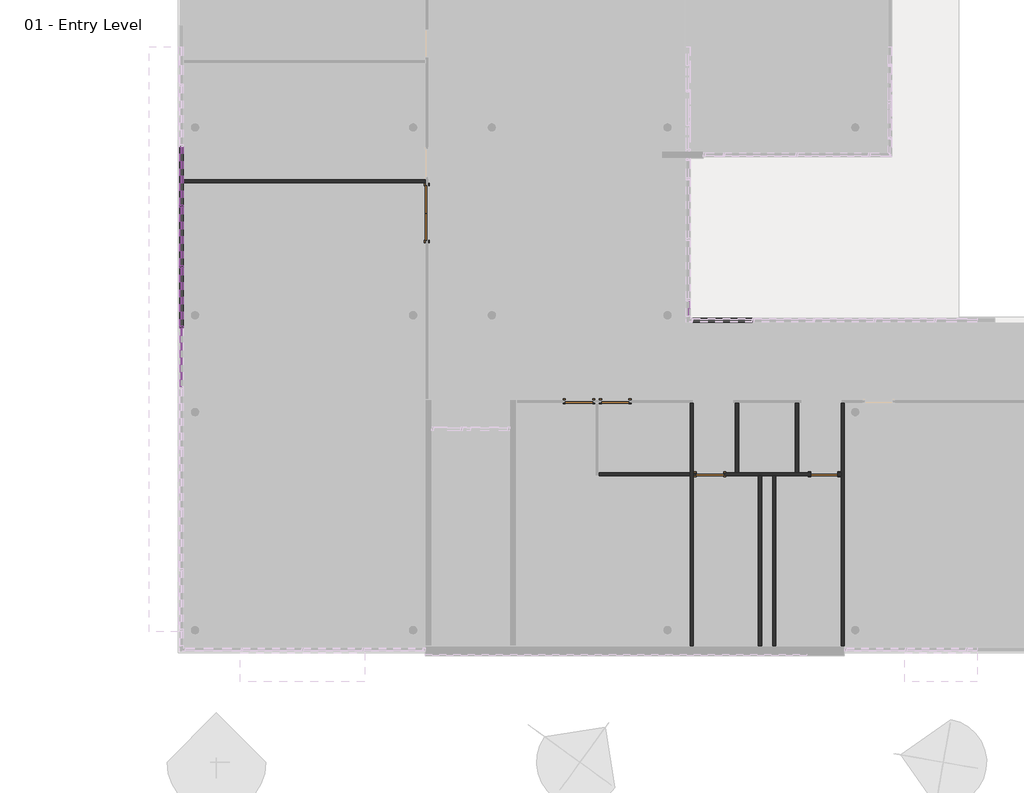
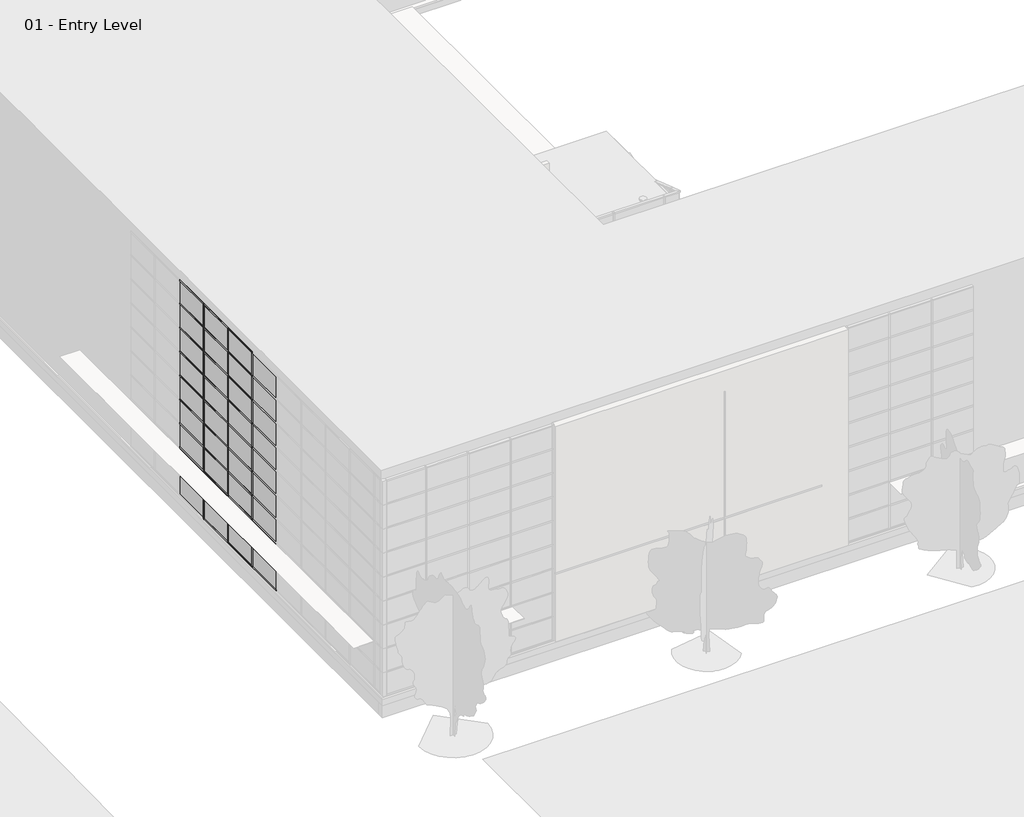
# One storey, part 8 of 35: 62 members, 45 plates, 8 walls, 5 doors.
"""IFC4 building model written with IfcOpenShell, lengths in millimetres."""

from ifc_helpers import new_model, si_unit, origin, origin_with_axes, place, context, project, spatial, polyline, outline, extrude, faceted_brep, transform, mapped, element, save
from components import door_3e29e47a, door_305aa2a5, door_e5f9f3c4, member_863be36e, member_2b49869a, member_391b434c, member_9e90ae50, member_274b5bb4, member_3d213ca6, member_ba732fc4, system_panel_glazed_1b9d6098, system_panel_glazed_70da479d, system_panel_glazed_4b84483b, system_panel_glazed_9dcaf0c5, system_panel_solid_b376696c, system_panel_solid_77e8b053

model = new_model("IFC4")

# Units and contexts
model_context = context("Model", 3, world=origin())
ifc_project = project(units=[si_unit("LENGTHUNIT", "METRE", prefix="MILLI")], contexts=[model_context])

# Site, building, storey
site = spatial("IfcSite", under=ifc_project)
building = spatial("IfcBuilding", under=site)
storey = spatial("IfcBuildingStorey", under=building, Name="01 - Entry Level", Elevation=0.0)

# Doors
placement = place(None, origin())
door_shape = door_3e29e47a(model_context)
element("IfcDoor", 1, ObjectType="Double-Flush : 72\" x 84\"", at=placement, inside=storey, context=model_context, shape_type="MappedRepresentation", body=[
    mapped(door_shape, transform((8414.6707476, 14595.4, 0.0), x_axis=(0.0, 1.0, 0.0), y_axis=(-1.0, 0.0, 0.0), z_axis=(0.0, 0.0, 1.0))),
])
door_2_shape = door_305aa2a5(model_context)
element("IfcDoor", 2, ObjectType="Single-Flush : 36\" x 84\"", at=placement, inside=storey, context=model_context, shape_type="MappedRepresentation", body=[
    mapped(door_2_shape, transform((13513.7207476, 8277.15, 0.0), x_axis=(1.0, 0.0, 0.0), y_axis=(0.0, 1.0, 0.0), z_axis=(0.0, 0.0, 1.0))),
])
element("IfcDoor", 3, ObjectType="Single-Flush : 36\" x 84\"", at=placement, inside=storey, context=model_context, shape_type="MappedRepresentation", body=[
    mapped(door_2_shape, transform((21743.3207476, 5832.4, 0.0), x_axis=(1.0, 0.0, 0.0), y_axis=(0.0, 1.0, 0.0), z_axis=(0.0, 0.0, 1.0))),
])
door_3_shape = door_e5f9f3c4(model_context)
element("IfcDoor", 4, ObjectType="Single-Flush : 36\" x 84\"", at=placement, inside=storey, context=model_context, shape_type="MappedRepresentation", body=[
    mapped(door_3_shape, transform((14732.9207476, 8277.15, 0.0), x_axis=(-1.0, 0.0, 0.0), y_axis=(0.0, -1.0, 0.0), z_axis=(0.0, 0.0, 1.0))),
])
element("IfcDoor", 5, ObjectType="Single-Flush : 36\" x 84\"", at=placement, inside=storey, context=model_context, shape_type="MappedRepresentation", body=[
    mapped(door_3_shape, transform((17907.9207476, 5832.4, 0.0), x_axis=(-1.0, 0.0, 0.0), y_axis=(0.0, -1.0, 0.0), z_axis=(0.0, 0.0, 1.0))),
])

# Members
member_shape = member_863be36e(model_context)
element("IfcMember", 6, ObjectType="L Corner Mullion : 5\" x 5\" Corner", at=placement, inside=storey, context=model_context, shape_type="MappedRepresentation", body=[
    mapped(member_shape, transform((17184.0207476, 11001.3, 10972.8), x_axis=(0.0, -1.0, 0.0), y_axis=(1.0, 0.0, 0.0), z_axis=(0.0, 0.0, 1.0))),
])
element("IfcMember", 7, ObjectType="L Corner Mullion : 5\" x 5\" Corner", at=placement, inside=storey, context=model_context, shape_type="MappedRepresentation", body=[
    mapped(member_shape, transform((17184.0207476, 11001.3, 6096.0), x_axis=(-1.0, 0.0, 0.0), y_axis=(0.0, 1.0, 0.0), z_axis=(0.0, 0.0, -1.0))),
])
member_2_shape = member_2b49869a(model_context)
element("IfcMember", 8, ObjectType="Rectangular Mullion : 2.5\" x 5\" rectangular", at=placement, inside=storey, context=model_context, shape_type="MappedRepresentation", body=[
    mapped(member_2_shape, transform((178.7207476, 14824.0, 9753.6), x_axis=(0.0, -1.0, 0.0), y_axis=(-1.0, 0.0, 0.0), z_axis=(0.0, 0.0, -1.0))),
])
element("IfcMember", 9, ObjectType="Rectangular Mullion : 2.5\" x 5\" rectangular", at=placement, inside=storey, context=model_context, shape_type="MappedRepresentation", body=[
    mapped(member_2_shape, transform((178.7207476, 12792.0, 9753.6), x_axis=(0.0, -1.0, 0.0), y_axis=(-1.0, 0.0, 0.0), z_axis=(0.0, 0.0, -1.0))),
])
element("IfcMember", 10, ObjectType="Rectangular Mullion : 2.5\" x 5\" rectangular", at=placement, inside=storey, context=model_context, shape_type="MappedRepresentation", body=[
    mapped(member_2_shape, transform((178.7207476, 10760.0, 9753.6), x_axis=(0.0, -1.0, 0.0), y_axis=(-1.0, 0.0, 0.0), z_axis=(0.0, 0.0, -1.0))),
])
member_3_shape = member_391b434c(model_context)
element("IfcMember", 11, ObjectType="Rectangular Mullion : 2.5\" x 5\" rectangular", at=placement, inside=storey, context=model_context, shape_type="MappedRepresentation", body=[
    mapped(member_3_shape, transform((178.7207476, 14855.75, 10972.8), x_axis=(0.0, 0.0, 1.0), y_axis=(-1.0, 0.0, 0.0), z_axis=(0.0, -1.0, 0.0))),
])
element("IfcMember", 12, ObjectType="Rectangular Mullion : 2.5\" x 5\" rectangular", at=placement, inside=storey, context=model_context, shape_type="MappedRepresentation", body=[
    mapped(member_3_shape, transform((178.7207476, 12823.75, 10972.8), x_axis=(0.0, 0.0, 1.0), y_axis=(-1.0, 0.0, 0.0), z_axis=(0.0, -1.0, 0.0))),
])
element("IfcMember", 13, ObjectType="Rectangular Mullion : 2.5\" x 5\" rectangular", at=placement, inside=storey, context=model_context, shape_type="MappedRepresentation", body=[
    mapped(member_3_shape, transform((178.7207476, 10791.75, 10972.8), x_axis=(0.0, 0.0, 1.0), y_axis=(-1.0, 0.0, 0.0), z_axis=(0.0, -1.0, 0.0))),
])
element("IfcMember", 14, ObjectType="Rectangular Mullion : 2.5\" x 5\" rectangular", at=placement, inside=storey, context=model_context, shape_type="MappedRepresentation", body=[
    mapped(member_3_shape, transform((178.7207476, 14792.25, 0.0), x_axis=(0.0, 0.0, -1.0), y_axis=(-1.0, 0.0, 0.0), z_axis=(0.0, 1.0, 0.0))),
])
element("IfcMember", 15, ObjectType="Rectangular Mullion : 2.5\" x 5\" rectangular", at=placement, inside=storey, context=model_context, shape_type="MappedRepresentation", body=[
    mapped(member_3_shape, transform((178.7207476, 12760.25, 0.0), x_axis=(0.0, 0.0, -1.0), y_axis=(-1.0, 0.0, 0.0), z_axis=(0.0, 1.0, 0.0))),
])
element("IfcMember", 16, ObjectType="Rectangular Mullion : 2.5\" x 5\" rectangular", at=placement, inside=storey, context=model_context, shape_type="MappedRepresentation", body=[
    mapped(member_3_shape, transform((178.7207476, 10728.25, 0.0), x_axis=(0.0, 0.0, -1.0), y_axis=(-1.0, 0.0, 0.0), z_axis=(0.0, 1.0, 0.0))),
])
member_4_shape = member_9e90ae50(model_context)
element("IfcMember", 17, ObjectType="Rectangular Mullion : 2.5\" x 5\" rectangular", at=placement, inside=storey, context=model_context, shape_type="MappedRepresentation", body=[
    mapped(member_4_shape, transform((178.7207476, 14855.75, 1219.2), x_axis=(0.0, 0.0, 1.0), y_axis=(-1.0, 0.0, 0.0), z_axis=(0.0, -1.0, 0.0))),
])
element("IfcMember", 18, ObjectType="Rectangular Mullion : 2.5\" x 5\" rectangular", at=placement, inside=storey, context=model_context, shape_type="MappedRepresentation", body=[
    mapped(member_4_shape, transform((178.7207476, 12823.75, 1219.2), x_axis=(0.0, 0.0, 1.0), y_axis=(-1.0, 0.0, 0.0), z_axis=(0.0, -1.0, 0.0))),
])
element("IfcMember", 19, ObjectType="Rectangular Mullion : 2.5\" x 5\" rectangular", at=placement, inside=storey, context=model_context, shape_type="MappedRepresentation", body=[
    mapped(member_4_shape, transform((178.7207476, 10791.75, 1219.2), x_axis=(0.0, 0.0, 1.0), y_axis=(-1.0, 0.0, 0.0), z_axis=(0.0, -1.0, 0.0))),
])
element("IfcMember", 20, ObjectType="Rectangular Mullion : 2.5\" x 5\" rectangular", at=placement, inside=storey, context=model_context, shape_type="MappedRepresentation", body=[
    mapped(member_4_shape, transform((178.7207476, 14855.75, 2438.4), x_axis=(0.0, 0.0, 1.0), y_axis=(-1.0, 0.0, 0.0), z_axis=(0.0, -1.0, 0.0))),
])
element("IfcMember", 21, ObjectType="Rectangular Mullion : 2.5\" x 5\" rectangular", at=placement, inside=storey, context=model_context, shape_type="MappedRepresentation", body=[
    mapped(member_4_shape, transform((178.7207476, 12823.75, 2438.4), x_axis=(0.0, 0.0, 1.0), y_axis=(-1.0, 0.0, 0.0), z_axis=(0.0, -1.0, 0.0))),
])
element("IfcMember", 22, ObjectType="Rectangular Mullion : 2.5\" x 5\" rectangular", at=placement, inside=storey, context=model_context, shape_type="MappedRepresentation", body=[
    mapped(member_4_shape, transform((178.7207476, 10791.75, 2438.4), x_axis=(0.0, 0.0, 1.0), y_axis=(-1.0, 0.0, 0.0), z_axis=(0.0, -1.0, 0.0))),
])
element("IfcMember", 23, ObjectType="Rectangular Mullion : 2.5\" x 5\" rectangular", at=placement, inside=storey, context=model_context, shape_type="MappedRepresentation", body=[
    mapped(member_4_shape, transform((178.7207476, 14855.75, 3657.6), x_axis=(0.0, 0.0, 1.0), y_axis=(-1.0, 0.0, 0.0), z_axis=(0.0, -1.0, 0.0))),
])
element("IfcMember", 24, ObjectType="Rectangular Mullion : 2.5\" x 5\" rectangular", at=placement, inside=storey, context=model_context, shape_type="MappedRepresentation", body=[
    mapped(member_4_shape, transform((178.7207476, 12823.75, 3657.6), x_axis=(0.0, 0.0, 1.0), y_axis=(-1.0, 0.0, 0.0), z_axis=(0.0, -1.0, 0.0))),
])
element("IfcMember", 25, ObjectType="Rectangular Mullion : 2.5\" x 5\" rectangular", at=placement, inside=storey, context=model_context, shape_type="MappedRepresentation", body=[
    mapped(member_4_shape, transform((178.7207476, 10791.75, 3657.6), x_axis=(0.0, 0.0, 1.0), y_axis=(-1.0, 0.0, 0.0), z_axis=(0.0, -1.0, 0.0))),
])
element("IfcMember", 26, ObjectType="Rectangular Mullion : 2.5\" x 5\" rectangular", at=placement, inside=storey, context=model_context, shape_type="MappedRepresentation", body=[
    mapped(member_4_shape, transform((178.7207476, 14855.75, 4876.8), x_axis=(0.0, 0.0, 1.0), y_axis=(-1.0, 0.0, 0.0), z_axis=(0.0, -1.0, 0.0))),
])
element("IfcMember", 27, ObjectType="Rectangular Mullion : 2.5\" x 5\" rectangular", at=placement, inside=storey, context=model_context, shape_type="MappedRepresentation", body=[
    mapped(member_4_shape, transform((178.7207476, 12823.75, 4876.8), x_axis=(0.0, 0.0, 1.0), y_axis=(-1.0, 0.0, 0.0), z_axis=(0.0, -1.0, 0.0))),
])
element("IfcMember", 28, ObjectType="Rectangular Mullion : 2.5\" x 5\" rectangular", at=placement, inside=storey, context=model_context, shape_type="MappedRepresentation", body=[
    mapped(member_4_shape, transform((178.7207476, 10791.75, 4876.8), x_axis=(0.0, 0.0, 1.0), y_axis=(-1.0, 0.0, 0.0), z_axis=(0.0, -1.0, 0.0))),
])
element("IfcMember", 29, ObjectType="Rectangular Mullion : 2.5\" x 5\" rectangular", at=placement, inside=storey, context=model_context, shape_type="MappedRepresentation", body=[
    mapped(member_4_shape, transform((178.7207476, 14855.75, 6096.0), x_axis=(0.0, 0.0, 1.0), y_axis=(-1.0, 0.0, 0.0), z_axis=(0.0, -1.0, 0.0))),
])
element("IfcMember", 30, ObjectType="Rectangular Mullion : 2.5\" x 5\" rectangular", at=placement, inside=storey, context=model_context, shape_type="MappedRepresentation", body=[
    mapped(member_4_shape, transform((178.7207476, 12823.75, 6096.0), x_axis=(0.0, 0.0, 1.0), y_axis=(-1.0, 0.0, 0.0), z_axis=(0.0, -1.0, 0.0))),
])
element("IfcMember", 31, ObjectType="Rectangular Mullion : 2.5\" x 5\" rectangular", at=placement, inside=storey, context=model_context, shape_type="MappedRepresentation", body=[
    mapped(member_4_shape, transform((178.7207476, 10791.75, 6096.0), x_axis=(0.0, 0.0, 1.0), y_axis=(-1.0, 0.0, 0.0), z_axis=(0.0, -1.0, 0.0))),
])
element("IfcMember", 32, ObjectType="Rectangular Mullion : 2.5\" x 5\" rectangular", at=placement, inside=storey, context=model_context, shape_type="MappedRepresentation", body=[
    mapped(member_4_shape, transform((178.7207476, 14855.75, 7315.2), x_axis=(0.0, 0.0, 1.0), y_axis=(-1.0, 0.0, 0.0), z_axis=(0.0, -1.0, 0.0))),
])
element("IfcMember", 33, ObjectType="Rectangular Mullion : 2.5\" x 5\" rectangular", at=placement, inside=storey, context=model_context, shape_type="MappedRepresentation", body=[
    mapped(member_4_shape, transform((178.7207476, 12823.75, 7315.2), x_axis=(0.0, 0.0, 1.0), y_axis=(-1.0, 0.0, 0.0), z_axis=(0.0, -1.0, 0.0))),
])
element("IfcMember", 34, ObjectType="Rectangular Mullion : 2.5\" x 5\" rectangular", at=placement, inside=storey, context=model_context, shape_type="MappedRepresentation", body=[
    mapped(member_4_shape, transform((178.7207476, 10791.75, 7315.2), x_axis=(0.0, 0.0, 1.0), y_axis=(-1.0, 0.0, 0.0), z_axis=(0.0, -1.0, 0.0))),
])
element("IfcMember", 35, ObjectType="Rectangular Mullion : 2.5\" x 5\" rectangular", at=placement, inside=storey, context=model_context, shape_type="MappedRepresentation", body=[
    mapped(member_4_shape, transform((178.7207476, 14855.75, 8534.4), x_axis=(0.0, 0.0, 1.0), y_axis=(-1.0, 0.0, 0.0), z_axis=(0.0, -1.0, 0.0))),
])
element("IfcMember", 36, ObjectType="Rectangular Mullion : 2.5\" x 5\" rectangular", at=placement, inside=storey, context=model_context, shape_type="MappedRepresentation", body=[
    mapped(member_4_shape, transform((178.7207476, 12823.75, 8534.4), x_axis=(0.0, 0.0, 1.0), y_axis=(-1.0, 0.0, 0.0), z_axis=(0.0, -1.0, 0.0))),
])
element("IfcMember", 37, ObjectType="Rectangular Mullion : 2.5\" x 5\" rectangular", at=placement, inside=storey, context=model_context, shape_type="MappedRepresentation", body=[
    mapped(member_4_shape, transform((178.7207476, 10791.75, 8534.4), x_axis=(0.0, 0.0, 1.0), y_axis=(-1.0, 0.0, 0.0), z_axis=(0.0, -1.0, 0.0))),
])
element("IfcMember", 38, ObjectType="Rectangular Mullion : 2.5\" x 5\" rectangular", at=placement, inside=storey, context=model_context, shape_type="MappedRepresentation", body=[
    mapped(member_4_shape, transform((178.7207476, 14855.75, 9753.6), x_axis=(0.0, 0.0, 1.0), y_axis=(-1.0, 0.0, 0.0), z_axis=(0.0, -1.0, 0.0))),
])
element("IfcMember", 39, ObjectType="Rectangular Mullion : 2.5\" x 5\" rectangular", at=placement, inside=storey, context=model_context, shape_type="MappedRepresentation", body=[
    mapped(member_4_shape, transform((178.7207476, 12823.75, 9753.6), x_axis=(0.0, 0.0, 1.0), y_axis=(-1.0, 0.0, 0.0), z_axis=(0.0, -1.0, 0.0))),
])
element("IfcMember", 40, ObjectType="Rectangular Mullion : 2.5\" x 5\" rectangular", at=placement, inside=storey, context=model_context, shape_type="MappedRepresentation", body=[
    mapped(member_4_shape, transform((178.7207476, 10791.75, 9753.6), x_axis=(0.0, 0.0, 1.0), y_axis=(-1.0, 0.0, 0.0), z_axis=(0.0, -1.0, 0.0))),
])
element("IfcMember", 41, ObjectType="Rectangular Mullion : 2.5\" x 5\" rectangular", at=placement, inside=storey, context=model_context, shape_type="MappedRepresentation", body=[
    mapped(member_2_shape, transform((178.7207476, 14824.0, 0.0), x_axis=(0.0, -1.0, 0.0), y_axis=(-1.0, 0.0, 0.0), z_axis=(0.0, 0.0, -1.0))),
])
element("IfcMember", 42, ObjectType="Rectangular Mullion : 2.5\" x 5\" rectangular", at=placement, inside=storey, context=model_context, shape_type="MappedRepresentation", body=[
    mapped(member_2_shape, transform((178.7207476, 12792.0, 0.0), x_axis=(0.0, -1.0, 0.0), y_axis=(-1.0, 0.0, 0.0), z_axis=(0.0, 0.0, -1.0))),
])
element("IfcMember", 43, ObjectType="Rectangular Mullion : 2.5\" x 5\" rectangular", at=placement, inside=storey, context=model_context, shape_type="MappedRepresentation", body=[
    mapped(member_2_shape, transform((178.7207476, 10760.0, 0.0), x_axis=(0.0, -1.0, 0.0), y_axis=(-1.0, 0.0, 0.0), z_axis=(0.0, 0.0, -1.0))),
])
element("IfcMember", 44, ObjectType="Rectangular Mullion : 2.5\" x 5\" rectangular", at=placement, inside=storey, context=model_context, shape_type="MappedRepresentation", body=[
    mapped(member_2_shape, transform((178.7207476, 14824.0, 1219.2), x_axis=(0.0, -1.0, 0.0), y_axis=(-1.0, 0.0, 0.0), z_axis=(0.0, 0.0, -1.0))),
])
element("IfcMember", 45, ObjectType="Rectangular Mullion : 2.5\" x 5\" rectangular", at=placement, inside=storey, context=model_context, shape_type="MappedRepresentation", body=[
    mapped(member_2_shape, transform((178.7207476, 12792.0, 1219.2), x_axis=(0.0, -1.0, 0.0), y_axis=(-1.0, 0.0, 0.0), z_axis=(0.0, 0.0, -1.0))),
])
element("IfcMember", 46, ObjectType="Rectangular Mullion : 2.5\" x 5\" rectangular", at=placement, inside=storey, context=model_context, shape_type="MappedRepresentation", body=[
    mapped(member_2_shape, transform((178.7207476, 10760.0, 1219.2), x_axis=(0.0, -1.0, 0.0), y_axis=(-1.0, 0.0, 0.0), z_axis=(0.0, 0.0, -1.0))),
])
element("IfcMember", 47, ObjectType="Rectangular Mullion : 2.5\" x 5\" rectangular", at=placement, inside=storey, context=model_context, shape_type="MappedRepresentation", body=[
    mapped(member_2_shape, transform((178.7207476, 14824.0, 2438.4), x_axis=(0.0, -1.0, 0.0), y_axis=(-1.0, 0.0, 0.0), z_axis=(0.0, 0.0, -1.0))),
])
element("IfcMember", 48, ObjectType="Rectangular Mullion : 2.5\" x 5\" rectangular", at=placement, inside=storey, context=model_context, shape_type="MappedRepresentation", body=[
    mapped(member_2_shape, transform((178.7207476, 12792.0, 2438.4), x_axis=(0.0, -1.0, 0.0), y_axis=(-1.0, 0.0, 0.0), z_axis=(0.0, 0.0, -1.0))),
])
element("IfcMember", 49, ObjectType="Rectangular Mullion : 2.5\" x 5\" rectangular", at=placement, inside=storey, context=model_context, shape_type="MappedRepresentation", body=[
    mapped(member_2_shape, transform((178.7207476, 10760.0, 2438.4), x_axis=(0.0, -1.0, 0.0), y_axis=(-1.0, 0.0, 0.0), z_axis=(0.0, 0.0, -1.0))),
])
element("IfcMember", 50, ObjectType="Rectangular Mullion : 2.5\" x 5\" rectangular", at=placement, inside=storey, context=model_context, shape_type="MappedRepresentation", body=[
    mapped(member_2_shape, transform((178.7207476, 14824.0, 3657.6), x_axis=(0.0, -1.0, 0.0), y_axis=(-1.0, 0.0, 0.0), z_axis=(0.0, 0.0, -1.0))),
])
element("IfcMember", 51, ObjectType="Rectangular Mullion : 2.5\" x 5\" rectangular", at=placement, inside=storey, context=model_context, shape_type="MappedRepresentation", body=[
    mapped(member_2_shape, transform((178.7207476, 12792.0, 3657.6), x_axis=(0.0, -1.0, 0.0), y_axis=(-1.0, 0.0, 0.0), z_axis=(0.0, 0.0, -1.0))),
])
element("IfcMember", 52, ObjectType="Rectangular Mullion : 2.5\" x 5\" rectangular", at=placement, inside=storey, context=model_context, shape_type="MappedRepresentation", body=[
    mapped(member_2_shape, transform((178.7207476, 10760.0, 3657.6), x_axis=(0.0, -1.0, 0.0), y_axis=(-1.0, 0.0, 0.0), z_axis=(0.0, 0.0, -1.0))),
])
element("IfcMember", 53, ObjectType="Rectangular Mullion : 2.5\" x 5\" rectangular", at=placement, inside=storey, context=model_context, shape_type="MappedRepresentation", body=[
    mapped(member_2_shape, transform((178.7207476, 14824.0, 4876.8), x_axis=(0.0, -1.0, 0.0), y_axis=(-1.0, 0.0, 0.0), z_axis=(0.0, 0.0, -1.0))),
])
element("IfcMember", 54, ObjectType="Rectangular Mullion : 2.5\" x 5\" rectangular", at=placement, inside=storey, context=model_context, shape_type="MappedRepresentation", body=[
    mapped(member_2_shape, transform((178.7207476, 12792.0, 4876.8), x_axis=(0.0, -1.0, 0.0), y_axis=(-1.0, 0.0, 0.0), z_axis=(0.0, 0.0, -1.0))),
])
element("IfcMember", 55, ObjectType="Rectangular Mullion : 2.5\" x 5\" rectangular", at=placement, inside=storey, context=model_context, shape_type="MappedRepresentation", body=[
    mapped(member_2_shape, transform((178.7207476, 10760.0, 4876.8), x_axis=(0.0, -1.0, 0.0), y_axis=(-1.0, 0.0, 0.0), z_axis=(0.0, 0.0, -1.0))),
])
element("IfcMember", 56, ObjectType="Rectangular Mullion : 2.5\" x 5\" rectangular", at=placement, inside=storey, context=model_context, shape_type="MappedRepresentation", body=[
    mapped(member_2_shape, transform((178.7207476, 14824.0, 6096.0), x_axis=(0.0, -1.0, 0.0), y_axis=(-1.0, 0.0, 0.0), z_axis=(0.0, 0.0, -1.0))),
])
element("IfcMember", 57, ObjectType="Rectangular Mullion : 2.5\" x 5\" rectangular", at=placement, inside=storey, context=model_context, shape_type="MappedRepresentation", body=[
    mapped(member_2_shape, transform((178.7207476, 12792.0, 6096.0), x_axis=(0.0, -1.0, 0.0), y_axis=(-1.0, 0.0, 0.0), z_axis=(0.0, 0.0, -1.0))),
])
element("IfcMember", 58, ObjectType="Rectangular Mullion : 2.5\" x 5\" rectangular", at=placement, inside=storey, context=model_context, shape_type="MappedRepresentation", body=[
    mapped(member_2_shape, transform((178.7207476, 10760.0, 6096.0), x_axis=(0.0, -1.0, 0.0), y_axis=(-1.0, 0.0, 0.0), z_axis=(0.0, 0.0, -1.0))),
])
element("IfcMember", 59, ObjectType="Rectangular Mullion : 2.5\" x 5\" rectangular", at=placement, inside=storey, context=model_context, shape_type="MappedRepresentation", body=[
    mapped(member_2_shape, transform((178.7207476, 14824.0, 7315.2), x_axis=(0.0, -1.0, 0.0), y_axis=(-1.0, 0.0, 0.0), z_axis=(0.0, 0.0, -1.0))),
])
element("IfcMember", 60, ObjectType="Rectangular Mullion : 2.5\" x 5\" rectangular", at=placement, inside=storey, context=model_context, shape_type="MappedRepresentation", body=[
    mapped(member_2_shape, transform((178.7207476, 12792.0, 7315.2), x_axis=(0.0, -1.0, 0.0), y_axis=(-1.0, 0.0, 0.0), z_axis=(0.0, 0.0, -1.0))),
])
element("IfcMember", 61, ObjectType="Rectangular Mullion : 2.5\" x 5\" rectangular", at=placement, inside=storey, context=model_context, shape_type="MappedRepresentation", body=[
    mapped(member_2_shape, transform((178.7207476, 10760.0, 7315.2), x_axis=(0.0, -1.0, 0.0), y_axis=(-1.0, 0.0, 0.0), z_axis=(0.0, 0.0, -1.0))),
])
element("IfcMember", 62, ObjectType="Rectangular Mullion : 2.5\" x 5\" rectangular", at=placement, inside=storey, context=model_context, shape_type="MappedRepresentation", body=[
    mapped(member_2_shape, transform((178.7207476, 14824.0, 8534.4), x_axis=(0.0, -1.0, 0.0), y_axis=(-1.0, 0.0, 0.0), z_axis=(0.0, 0.0, -1.0))),
])
element("IfcMember", 63, ObjectType="Rectangular Mullion : 2.5\" x 5\" rectangular", at=placement, inside=storey, context=model_context, shape_type="MappedRepresentation", body=[
    mapped(member_2_shape, transform((178.7207476, 12792.0, 8534.4), x_axis=(0.0, -1.0, 0.0), y_axis=(-1.0, 0.0, 0.0), z_axis=(0.0, 0.0, -1.0))),
])
element("IfcMember", 64, ObjectType="Rectangular Mullion : 2.5\" x 5\" rectangular", at=placement, inside=storey, context=model_context, shape_type="MappedRepresentation", body=[
    mapped(member_2_shape, transform((178.7207476, 10760.0, 8534.4), x_axis=(0.0, -1.0, 0.0), y_axis=(-1.0, 0.0, 0.0), z_axis=(0.0, 0.0, -1.0))),
])
member_5_shape = member_274b5bb4(model_context)
element("IfcMember", 65, ObjectType="Rectangular Mullion : 2.5\" x 5\" rectangular", at=placement, inside=storey, context=model_context, shape_type="MappedRepresentation", body=[
    mapped(member_5_shape, transform((17184.0207476, 11128.3, 0.0), x_axis=(0.0, 0.0, -1.0), y_axis=(1.0, 0.0, 0.0), z_axis=(0.0, -1.0, 0.0))),
])
member_6_shape = member_3d213ca6(model_context)
element("IfcMember", 66, ObjectType="Rectangular Mullion : 2.5\" x 5\" rectangular", at=placement, inside=storey, context=model_context, shape_type="MappedRepresentation", body=[
    mapped(member_6_shape, transform((17336.4207476, 11001.3, 1219.2), x_axis=(0.0, 0.0, 1.0), y_axis=(0.0, 1.0, 0.0), z_axis=(-1.0, 0.0, 0.0))),
])
member_7_shape = member_ba732fc4(model_context)
element("IfcMember", 67, ObjectType="Rectangular Mullion : 2.5\" x 5\" rectangular", at=placement, inside=storey, context=model_context, shape_type="MappedRepresentation", body=[
    mapped(member_7_shape, transform((17311.0207476, 11001.3, 10972.8), x_axis=(0.0, 0.0, 1.0), y_axis=(0.0, 1.0, 0.0), z_axis=(-1.0, 0.0, 0.0))),
])

# Plates
system_panel_glazed_shape = system_panel_glazed_1b9d6098(model_context)
element("IfcPlate", 68, ObjectType="System Panel : Glazed", at=placement, inside=storey, context=model_context, shape_type="MappedRepresentation", body=[
    mapped(system_panel_glazed_shape, transform((178.7207476, 15840.0, 63.5), x_axis=(0.0, -1.0, 0.0), y_axis=(1.0, 0.0, 0.0), z_axis=(0.0, 0.0, 1.0))),
])
element("IfcPlate", 69, ObjectType="System Panel : Glazed", at=placement, inside=storey, context=model_context, shape_type="MappedRepresentation", body=[
    mapped(system_panel_glazed_shape, transform((178.7207476, 13808.0, 63.5), x_axis=(0.0, -1.0, 0.0), y_axis=(1.0, 0.0, 0.0), z_axis=(0.0, 0.0, 1.0))),
])
element("IfcPlate", 70, ObjectType="System Panel : Glazed", at=placement, inside=storey, context=model_context, shape_type="MappedRepresentation", body=[
    mapped(system_panel_glazed_shape, transform((178.7207476, 11776.0, 63.5), x_axis=(0.0, -1.0, 0.0), y_axis=(1.0, 0.0, 0.0), z_axis=(0.0, 0.0, 1.0))),
])
element("IfcPlate", 71, ObjectType="System Panel : Glazed", at=placement, inside=storey, context=model_context, shape_type="MappedRepresentation", body=[
    mapped(system_panel_glazed_shape, transform((178.7207476, 9744.0, 63.5), x_axis=(0.0, -1.0, 0.0), y_axis=(1.0, 0.0, 0.0), z_axis=(0.0, 0.0, 1.0))),
])
system_panel_glazed_2_shape = system_panel_glazed_70da479d(model_context)
element("IfcPlate", 72, ObjectType="System Panel : Glazed", at=placement, inside=storey, context=model_context, shape_type="MappedRepresentation", body=[
    mapped(system_panel_glazed_2_shape, transform((178.7207476, 15840.0, 1250.95), x_axis=(0.0, -1.0, 0.0), y_axis=(1.0, 0.0, 0.0), z_axis=(0.0, 0.0, 1.0))),
])
element("IfcPlate", 73, ObjectType="System Panel : Glazed", at=placement, inside=storey, context=model_context, shape_type="MappedRepresentation", body=[
    mapped(system_panel_glazed_2_shape, transform((178.7207476, 13808.0, 1250.95), x_axis=(0.0, -1.0, 0.0), y_axis=(1.0, 0.0, 0.0), z_axis=(0.0, 0.0, 1.0))),
])
element("IfcPlate", 74, ObjectType="System Panel : Glazed", at=placement, inside=storey, context=model_context, shape_type="MappedRepresentation", body=[
    mapped(system_panel_glazed_2_shape, transform((178.7207476, 11776.0, 1250.95), x_axis=(0.0, -1.0, 0.0), y_axis=(1.0, 0.0, 0.0), z_axis=(0.0, 0.0, 1.0))),
])
element("IfcPlate", 75, ObjectType="System Panel : Glazed", at=placement, inside=storey, context=model_context, shape_type="MappedRepresentation", body=[
    mapped(system_panel_glazed_2_shape, transform((178.7207476, 9744.0, 1250.95), x_axis=(0.0, -1.0, 0.0), y_axis=(1.0, 0.0, 0.0), z_axis=(0.0, 0.0, 1.0))),
])
element("IfcPlate", 76, ObjectType="System Panel : Glazed", at=placement, inside=storey, context=model_context, shape_type="MappedRepresentation", body=[
    mapped(system_panel_glazed_2_shape, transform((178.7207476, 15840.0, 3689.35), x_axis=(0.0, -1.0, 0.0), y_axis=(1.0, 0.0, 0.0), z_axis=(0.0, 0.0, 1.0))),
])
element("IfcPlate", 77, ObjectType="System Panel : Glazed", at=placement, inside=storey, context=model_context, shape_type="MappedRepresentation", body=[
    mapped(system_panel_glazed_2_shape, transform((178.7207476, 13808.0, 3689.35), x_axis=(0.0, -1.0, 0.0), y_axis=(1.0, 0.0, 0.0), z_axis=(0.0, 0.0, 1.0))),
])
element("IfcPlate", 78, ObjectType="System Panel : Glazed", at=placement, inside=storey, context=model_context, shape_type="MappedRepresentation", body=[
    mapped(system_panel_glazed_2_shape, transform((178.7207476, 11776.0, 3689.35), x_axis=(0.0, -1.0, 0.0), y_axis=(1.0, 0.0, 0.0), z_axis=(0.0, 0.0, 1.0))),
])
element("IfcPlate", 79, ObjectType="System Panel : Glazed", at=placement, inside=storey, context=model_context, shape_type="MappedRepresentation", body=[
    mapped(system_panel_glazed_2_shape, transform((178.7207476, 9744.0, 3689.35), x_axis=(0.0, -1.0, 0.0), y_axis=(1.0, 0.0, 0.0), z_axis=(0.0, 0.0, 1.0))),
])
element("IfcPlate", 80, ObjectType="System Panel : Glazed", at=placement, inside=storey, context=model_context, shape_type="MappedRepresentation", body=[
    mapped(system_panel_glazed_2_shape, transform((178.7207476, 15840.0, 4908.55), x_axis=(0.0, -1.0, 0.0), y_axis=(1.0, 0.0, 0.0), z_axis=(0.0, 0.0, 1.0))),
])
element("IfcPlate", 81, ObjectType="System Panel : Glazed", at=placement, inside=storey, context=model_context, shape_type="MappedRepresentation", body=[
    mapped(system_panel_glazed_2_shape, transform((178.7207476, 13808.0, 4908.55), x_axis=(0.0, -1.0, 0.0), y_axis=(1.0, 0.0, 0.0), z_axis=(0.0, 0.0, 1.0))),
])
element("IfcPlate", 82, ObjectType="System Panel : Glazed", at=placement, inside=storey, context=model_context, shape_type="MappedRepresentation", body=[
    mapped(system_panel_glazed_2_shape, transform((178.7207476, 11776.0, 4908.55), x_axis=(0.0, -1.0, 0.0), y_axis=(1.0, 0.0, 0.0), z_axis=(0.0, 0.0, 1.0))),
])
element("IfcPlate", 83, ObjectType="System Panel : Glazed", at=placement, inside=storey, context=model_context, shape_type="MappedRepresentation", body=[
    mapped(system_panel_glazed_2_shape, transform((178.7207476, 9744.0, 4908.55), x_axis=(0.0, -1.0, 0.0), y_axis=(1.0, 0.0, 0.0), z_axis=(0.0, 0.0, 1.0))),
])
element("IfcPlate", 84, ObjectType="System Panel : Glazed", at=placement, inside=storey, context=model_context, shape_type="MappedRepresentation", body=[
    mapped(system_panel_glazed_2_shape, transform((178.7207476, 15840.0, 7346.95), x_axis=(0.0, -1.0, 0.0), y_axis=(1.0, 0.0, 0.0), z_axis=(0.0, 0.0, 1.0))),
])
element("IfcPlate", 85, ObjectType="System Panel : Glazed", at=placement, inside=storey, context=model_context, shape_type="MappedRepresentation", body=[
    mapped(system_panel_glazed_2_shape, transform((178.7207476, 13808.0, 7346.95), x_axis=(0.0, -1.0, 0.0), y_axis=(1.0, 0.0, 0.0), z_axis=(0.0, 0.0, 1.0))),
])
element("IfcPlate", 86, ObjectType="System Panel : Glazed", at=placement, inside=storey, context=model_context, shape_type="MappedRepresentation", body=[
    mapped(system_panel_glazed_2_shape, transform((178.7207476, 11776.0, 7346.95), x_axis=(0.0, -1.0, 0.0), y_axis=(1.0, 0.0, 0.0), z_axis=(0.0, 0.0, 1.0))),
])
element("IfcPlate", 87, ObjectType="System Panel : Glazed", at=placement, inside=storey, context=model_context, shape_type="MappedRepresentation", body=[
    mapped(system_panel_glazed_2_shape, transform((178.7207476, 9744.0, 7346.95), x_axis=(0.0, -1.0, 0.0), y_axis=(1.0, 0.0, 0.0), z_axis=(0.0, 0.0, 1.0))),
])
element("IfcPlate", 88, ObjectType="System Panel : Glazed", at=placement, inside=storey, context=model_context, shape_type="MappedRepresentation", body=[
    mapped(system_panel_glazed_2_shape, transform((178.7207476, 15840.0, 8566.15), x_axis=(0.0, -1.0, 0.0), y_axis=(1.0, 0.0, 0.0), z_axis=(0.0, 0.0, 1.0))),
])
element("IfcPlate", 89, ObjectType="System Panel : Glazed", at=placement, inside=storey, context=model_context, shape_type="MappedRepresentation", body=[
    mapped(system_panel_glazed_2_shape, transform((178.7207476, 13808.0, 8566.15), x_axis=(0.0, -1.0, 0.0), y_axis=(1.0, 0.0, 0.0), z_axis=(0.0, 0.0, 1.0))),
])
element("IfcPlate", 90, ObjectType="System Panel : Glazed", at=placement, inside=storey, context=model_context, shape_type="MappedRepresentation", body=[
    mapped(system_panel_glazed_2_shape, transform((178.7207476, 11776.0, 8566.15), x_axis=(0.0, -1.0, 0.0), y_axis=(1.0, 0.0, 0.0), z_axis=(0.0, 0.0, 1.0))),
])
element("IfcPlate", 91, ObjectType="System Panel : Glazed", at=placement, inside=storey, context=model_context, shape_type="MappedRepresentation", body=[
    mapped(system_panel_glazed_2_shape, transform((178.7207476, 9744.0, 8566.15), x_axis=(0.0, -1.0, 0.0), y_axis=(1.0, 0.0, 0.0), z_axis=(0.0, 0.0, 1.0))),
])
system_panel_glazed_3_shape = system_panel_glazed_4b84483b(model_context)
element("IfcPlate", 92, ObjectType="System Panel : Glazed", at=placement, inside=storey, context=model_context, shape_type="MappedRepresentation", body=[
    mapped(system_panel_glazed_3_shape, transform((17184.0207476, 11391.825, 63.5), x_axis=(0.0, 1.0, 0.0), y_axis=(-1.0, 0.0, 0.0), z_axis=(0.0, 0.0, 1.0))),
])
element("IfcPlate", 93, ObjectType="System Panel : Glazed", at=placement, inside=storey, context=model_context, shape_type="MappedRepresentation", body=[
    mapped(system_panel_glazed_3_shape, transform((17184.0207476, 11391.825, 9785.35), x_axis=(0.0, 1.0, 0.0), y_axis=(-1.0, 0.0, 0.0), z_axis=(0.0, 0.0, 1.0))),
])
system_panel_glazed_4_shape = system_panel_glazed_9dcaf0c5(model_context)
element("IfcPlate", 94, ObjectType="System Panel : Glazed", at=placement, inside=storey, context=model_context, shape_type="MappedRepresentation", body=[
    mapped(system_panel_glazed_4_shape, transform((17184.0207476, 11391.825, 1250.95), x_axis=(0.0, 1.0, 0.0), y_axis=(-1.0, 0.0, 0.0), z_axis=(0.0, 0.0, 1.0))),
])
element("IfcPlate", 95, ObjectType="System Panel : Glazed", at=placement, inside=storey, context=model_context, shape_type="MappedRepresentation", body=[
    mapped(system_panel_glazed_4_shape, transform((17184.0207476, 11391.825, 2470.15), x_axis=(0.0, 1.0, 0.0), y_axis=(-1.0, 0.0, 0.0), z_axis=(0.0, 0.0, 1.0))),
])
element("IfcPlate", 96, ObjectType="System Panel : Glazed", at=placement, inside=storey, context=model_context, shape_type="MappedRepresentation", body=[
    mapped(system_panel_glazed_4_shape, transform((17184.0207476, 11391.825, 3689.35), x_axis=(0.0, 1.0, 0.0), y_axis=(-1.0, 0.0, 0.0), z_axis=(0.0, 0.0, 1.0))),
])
element("IfcPlate", 97, ObjectType="System Panel : Glazed", at=placement, inside=storey, context=model_context, shape_type="MappedRepresentation", body=[
    mapped(system_panel_glazed_4_shape, transform((17184.0207476, 11391.825, 4908.55), x_axis=(0.0, 1.0, 0.0), y_axis=(-1.0, 0.0, 0.0), z_axis=(0.0, 0.0, 1.0))),
])
element("IfcPlate", 98, ObjectType="System Panel : Glazed", at=placement, inside=storey, context=model_context, shape_type="MappedRepresentation", body=[
    mapped(system_panel_glazed_4_shape, transform((17184.0207476, 11391.825, 6127.75), x_axis=(0.0, 1.0, 0.0), y_axis=(-1.0, 0.0, 0.0), z_axis=(0.0, 0.0, 1.0))),
])
element("IfcPlate", 99, ObjectType="System Panel : Glazed", at=placement, inside=storey, context=model_context, shape_type="MappedRepresentation", body=[
    mapped(system_panel_glazed_4_shape, transform((17184.0207476, 11391.825, 7346.95), x_axis=(0.0, 1.0, 0.0), y_axis=(-1.0, 0.0, 0.0), z_axis=(0.0, 0.0, 1.0))),
])
element("IfcPlate", 100, ObjectType="System Panel : Glazed", at=placement, inside=storey, context=model_context, shape_type="MappedRepresentation", body=[
    mapped(system_panel_glazed_4_shape, transform((17184.0207476, 11391.825, 8566.15), x_axis=(0.0, 1.0, 0.0), y_axis=(-1.0, 0.0, 0.0), z_axis=(0.0, 0.0, 1.0))),
])
system_panel_solid_shape = system_panel_solid_b376696c(model_context)
element("IfcPlate", 101, ObjectType="System Panel : Solid", at=placement, inside=storey, context=model_context, shape_type="MappedRepresentation", body=[
    mapped(system_panel_solid_shape, transform((178.7207476, 15840.0, 9785.35), x_axis=(0.0, -1.0, 0.0), y_axis=(1.0, 0.0, 0.0), z_axis=(0.0, 0.0, 1.0))),
])
element("IfcPlate", 102, ObjectType="System Panel : Solid", at=placement, inside=storey, context=model_context, shape_type="MappedRepresentation", body=[
    mapped(system_panel_solid_shape, transform((178.7207476, 13808.0, 9785.35), x_axis=(0.0, -1.0, 0.0), y_axis=(1.0, 0.0, 0.0), z_axis=(0.0, 0.0, 1.0))),
])
element("IfcPlate", 103, ObjectType="System Panel : Solid", at=placement, inside=storey, context=model_context, shape_type="MappedRepresentation", body=[
    mapped(system_panel_solid_shape, transform((178.7207476, 11776.0, 9785.35), x_axis=(0.0, -1.0, 0.0), y_axis=(1.0, 0.0, 0.0), z_axis=(0.0, 0.0, 1.0))),
])
element("IfcPlate", 104, ObjectType="System Panel : Solid", at=placement, inside=storey, context=model_context, shape_type="MappedRepresentation", body=[
    mapped(system_panel_solid_shape, transform((178.7207476, 9744.0, 9785.35), x_axis=(0.0, -1.0, 0.0), y_axis=(1.0, 0.0, 0.0), z_axis=(0.0, 0.0, 1.0))),
])
system_panel_solid_2_shape = system_panel_solid_77e8b053(model_context)
element("IfcPlate", 105, ObjectType="System Panel : Solid", at=placement, inside=storey, context=model_context, shape_type="MappedRepresentation", body=[
    mapped(system_panel_solid_2_shape, transform((178.7207476, 15840.0, 2470.15), x_axis=(0.0, -1.0, 0.0), y_axis=(1.0, 0.0, 0.0), z_axis=(0.0, 0.0, 1.0))),
])
element("IfcPlate", 106, ObjectType="System Panel : Solid", at=placement, inside=storey, context=model_context, shape_type="MappedRepresentation", body=[
    mapped(system_panel_solid_2_shape, transform((178.7207476, 13808.0, 2470.15), x_axis=(0.0, -1.0, 0.0), y_axis=(1.0, 0.0, 0.0), z_axis=(0.0, 0.0, 1.0))),
])
element("IfcPlate", 107, ObjectType="System Panel : Solid", at=placement, inside=storey, context=model_context, shape_type="MappedRepresentation", body=[
    mapped(system_panel_solid_2_shape, transform((178.7207476, 11776.0, 2470.15), x_axis=(0.0, -1.0, 0.0), y_axis=(1.0, 0.0, 0.0), z_axis=(0.0, 0.0, 1.0))),
])
element("IfcPlate", 108, ObjectType="System Panel : Solid", at=placement, inside=storey, context=model_context, shape_type="MappedRepresentation", body=[
    mapped(system_panel_solid_2_shape, transform((178.7207476, 9744.0, 2470.15), x_axis=(0.0, -1.0, 0.0), y_axis=(1.0, 0.0, 0.0), z_axis=(0.0, 0.0, 1.0))),
])
element("IfcPlate", 109, ObjectType="System Panel : Solid", at=placement, inside=storey, context=model_context, shape_type="MappedRepresentation", body=[
    mapped(system_panel_solid_2_shape, transform((178.7207476, 15840.0, 6127.75), x_axis=(0.0, -1.0, 0.0), y_axis=(1.0, 0.0, 0.0), z_axis=(0.0, 0.0, 1.0))),
])
element("IfcPlate", 110, ObjectType="System Panel : Solid", at=placement, inside=storey, context=model_context, shape_type="MappedRepresentation", body=[
    mapped(system_panel_solid_2_shape, transform((178.7207476, 13808.0, 6127.75), x_axis=(0.0, -1.0, 0.0), y_axis=(1.0, 0.0, 0.0), z_axis=(0.0, 0.0, 1.0))),
])
element("IfcPlate", 111, ObjectType="System Panel : Solid", at=placement, inside=storey, context=model_context, shape_type="MappedRepresentation", body=[
    mapped(system_panel_solid_2_shape, transform((178.7207476, 11776.0, 6127.75), x_axis=(0.0, -1.0, 0.0), y_axis=(1.0, 0.0, 0.0), z_axis=(0.0, 0.0, 1.0))),
])
element("IfcPlate", 112, ObjectType="System Panel : Solid", at=placement, inside=storey, context=model_context, shape_type="MappedRepresentation", body=[
    mapped(system_panel_solid_2_shape, transform((178.7207476, 9744.0, 6127.75), x_axis=(0.0, -1.0, 0.0), y_axis=(1.0, 0.0, 0.0), z_axis=(0.0, 0.0, 1.0))),
])

# Walls
element("IfcWall", 113, ObjectType="Typ. Partition Wall", at=placement, inside=storey, context=model_context, shape_type="SweptSolid", body=[
    extrude(outline(polyline([(178.7207476, 15719.35), (8357.5207476, 15719.35), (8357.5207476, 15605.05), (178.7207476, 15605.05), (178.7207476, 15719.35)])), origin_with_axes(), (0.0, 0.0, 1.0), 3403.6),
])
element("IfcWall", 114, ObjectType="Typ. Partition Wall", at=placement, inside=storey, context=model_context, shape_type="Brep", body=[
    faceted_brep([(17355.4707476, 53.9, 0.0), (17355.4707476, 5775.25, 0.0), (17355.4707476, 5889.55, 0.0), (17355.4707476, 8220.0, 0.0), (17355.4707476, 8220.0, 2133.6), (17355.4707476, 8220.0, 3403.6), (17355.4707476, 5889.55, 3403.6), (17355.4707476, 5775.25, 3403.6), (17355.4707476, 53.9, 3403.6), (17241.1707476, 53.9, 0.0), (17241.1707476, 53.9, 3403.6), (17241.1707476, 5775.25, 3403.6), (17241.1707476, 5889.55, 3403.6), (17241.1707476, 8220.0, 3403.6), (17241.1707476, 8220.0, 0.0), (17241.1707476, 5889.55, 0.0), (17241.1707476, 5775.25, 0.0)], [[[0, 1, 2, 3, 4, 5, 6, 7, 8]], [[9, 10, 11, 12, 13, 14, 15, 16]], [[3, 2, 1, 0, 9, 16, 15, 14]], [[0, 8, 10, 9]], [[5, 4, 3, 14, 13]], [[8, 7, 6, 5, 13, 12, 11, 10]]]),
])
element("IfcWall", 115, ObjectType="Typ. Partition Wall", at=placement, inside=storey, context=model_context, shape_type="Brep", body=[
    faceted_brep([(22422.7707476, 53.9, 0.0), (22422.7707476, 8220.0, 0.0), (22422.7707476, 8220.0, 3403.6), (22422.7707476, 53.9, 3403.6), (22308.4707476, 53.9, 0.0), (22308.4707476, 53.9, 3403.6), (22308.4707476, 5775.25, 3403.6), (22308.4707476, 5889.55, 3403.6), (22308.4707476, 8220.0, 3403.6), (22308.4707476, 8220.0, 2133.6), (22308.4707476, 8220.0, 0.0), (22308.4707476, 5889.55, 0.0), (22308.4707476, 5775.25, 0.0)], [[[0, 1, 2, 3]], [[4, 5, 6, 7, 8, 9, 10, 11, 12]], [[1, 0, 4, 12, 11, 10]], [[2, 1, 10, 9, 8]], [[0, 3, 5, 4]], [[3, 2, 8, 7, 6, 5]]]),
])
element("IfcWall", 116, ObjectType="Typ. Partition Wall", at=placement, inside=storey, context=model_context, shape_type="Brep", body=[
    faceted_brep([(22308.4707476, 5775.25, 0.0), (22308.4707476, 5775.25, 3403.6), (20124.0707476, 5775.25, 3403.6), (20009.7707476, 5775.25, 3403.6), (19641.4707476, 5775.25, 3403.6), (19527.1707476, 5775.25, 3403.6), (17355.4707476, 5775.25, 3403.6), (17355.4707476, 5775.25, 0.0), (17450.7207476, 5775.25, 0.0), (17450.7207476, 5775.25, 2133.6), (18365.1207476, 5775.25, 2133.6), (18365.1207476, 5775.25, 0.0), (19527.1707476, 5775.25, 0.0), (19641.4707476, 5775.25, 0.0), (20009.7707476, 5775.25, 0.0), (20124.0707476, 5775.25, 0.0), (21286.1207476, 5775.25, 0.0), (21286.1207476, 5775.25, 2133.6), (22200.5207476, 5775.25, 2133.6), (22200.5207476, 5775.25, 0.0), (22308.4707476, 5889.55, 3403.6), (22308.4707476, 5889.55, 0.0), (22200.5207476, 5889.55, 0.0), (22200.5207476, 5889.55, 2133.6), (21286.1207476, 5889.55, 2133.6), (21286.1207476, 5889.55, 0.0), (20886.0707476, 5889.55, 0.0), (20771.7707476, 5889.55, 0.0), (18879.4707476, 5889.55, 0.0), (18765.1707476, 5889.55, 0.0), (18365.1207476, 5889.55, 0.0), (18365.1207476, 5889.55, 2133.6), (17450.7207476, 5889.55, 2133.6), (17450.7207476, 5889.55, 0.0), (17355.4707476, 5889.55, 0.0), (17355.4707476, 5889.55, 3403.6), (18765.1707476, 5889.55, 3403.6), (18879.4707476, 5889.55, 3403.6), (20771.7707476, 5889.55, 3403.6), (20886.0707476, 5889.55, 3403.6)], [[[0, 1, 2, 3, 4, 5, 6, 7, 8, 9, 10, 11, 12, 13, 14, 15, 16, 17, 18, 19]], [[20, 21, 22, 23, 24, 25, 26, 27, 28, 29, 30, 31, 32, 33, 34, 35, 36, 37, 38, 39]], [[21, 0, 19, 22]], [[33, 8, 7, 34]], [[11, 30, 29, 28, 27, 26, 25, 16, 15, 14, 13, 12]], [[1, 0, 21, 20]], [[1, 20, 39, 38, 37, 36, 35, 6, 5, 4, 3, 2]], [[9, 8, 33, 32]], [[10, 9, 32, 31]], [[11, 10, 31, 30]], [[23, 22, 19, 18]], [[24, 23, 18, 17]], [[25, 24, 17, 16]], [[7, 6, 35, 34]]]),
    faceted_brep([(14180.4707476, 5775.25, 3403.6), (14180.4707476, 5775.25, 0.0), (17241.1707476, 5775.25, 0.0), (17241.1707476, 5775.25, 3403.6), (14180.4707476, 5889.55, 0.0), (14180.4707476, 5889.55, 3403.6), (17241.1707476, 5889.55, 3403.6), (17241.1707476, 5889.55, 0.0)], [[[0, 1, 2, 3]], [[4, 5, 6, 7]], [[1, 4, 7, 2]], [[5, 0, 3, 6]], [[1, 0, 5, 4]], [[3, 2, 7, 6]]]),
])
element("IfcWall", 117, ObjectType="Typ. Partition Wall", at=placement, inside=storey, context=model_context, shape_type="SweptSolid", body=[
    extrude(outline(polyline([(19527.1707476, 53.9), (19527.1707476, 5775.25), (19641.4707476, 5775.25), (19641.4707476, 53.9), (19527.1707476, 53.9)])), origin_with_axes(), (0.0, 0.0, 1.0), 3403.6),
])
element("IfcWall", 118, ObjectType="Typ. Partition Wall", at=placement, inside=storey, context=model_context, shape_type="SweptSolid", body=[
    extrude(outline(polyline([(20009.7707476, 53.9), (20009.7707476, 5775.25), (20124.0707476, 5775.25), (20124.0707476, 53.9), (20009.7707476, 53.9)])), origin_with_axes(), (0.0, 0.0, 1.0), 3403.6),
])
element("IfcWall", 119, ObjectType="Typ. Partition Wall", at=placement, inside=storey, context=model_context, shape_type="SweptSolid", body=[
    extrude(outline(polyline([(18879.4707476, 8220.0), (18879.4707476, 5889.55), (18765.1707476, 5889.55), (18765.1707476, 8220.0), (18879.4707476, 8220.0)])), origin_with_axes(), (0.0, 0.0, 1.0), 3403.6),
])
element("IfcWall", 120, ObjectType="Typ. Partition Wall", at=placement, inside=storey, context=model_context, shape_type="SweptSolid", body=[
    extrude(outline(polyline([(20886.0707476, 8220.0), (20886.0707476, 5889.55), (20771.7707476, 5889.55), (20771.7707476, 8220.0), (20886.0707476, 8220.0)])), origin_with_axes(), (0.0, 0.0, 1.0), 3403.6),
])

save(model, "model.ifc")
